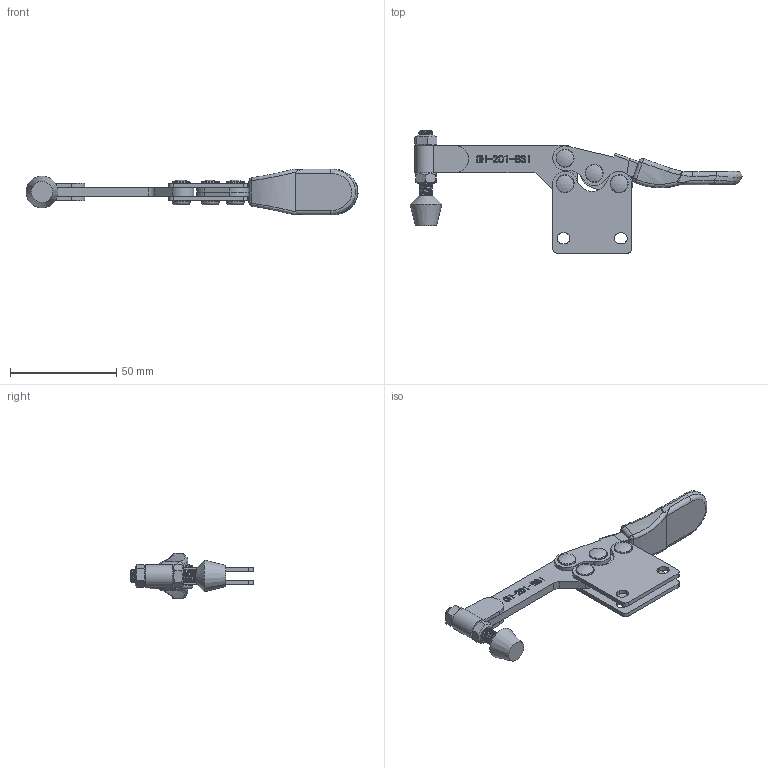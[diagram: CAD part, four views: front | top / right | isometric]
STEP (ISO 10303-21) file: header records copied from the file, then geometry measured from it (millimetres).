
FILE_DESCRIPTION(/* description */ ('STEP AP203'),/* implementation_level */ '2;1');
FILE_NAME(/* name */ 'E:\STRONA\Horizontal toggle clamp\CH-201-BSI\CH-201-BSI_ZAMKNIETY.stp',/* time_stamp */ '2019-01-15T15:37:53+01:00',/* author */ ('Admin'),/* organization */ ('·L?¤¤?'),/* preprocessor_version */ 'ST-DEVELOPER v17.2',/* originating_system */ 'Autodesk Inventor 2019',/* authorisation */ '');
FILE_SCHEMA (('AUTOMOTIVE_DESIGN { 1 0 10303 214 3 1 1 }'));
Products named in the file (11): CH-201-BSI_ZAMKNIETY; 14134-02___; BR-142___; 201-B-04___; 201-B___; 201-B-03___; 201-B-05___; 201-BSI-02___; 201-BI-01___; 14134___; 201-B-06___
Assembly tree (15 placements, depth 3):
  CH-201-BSI_ZAMKNIETY
    14134-02___  x2
    201-B-06___  x4
    201-B-04___  x2
    BR-142___
    201-B___
      201-B-03___
      201-B-05___
    201-BSI-02___
    201-BI-01___
    14134___
Bounding box: 155.98 x 57.47 x 21.5 mm (x, y, z)
Volume: 22601.7 mm3; surface area: 24066.8 mm2
Topology: 15 solids, 17 shells, 660 faces, 1813 edges, 1218 vertices
Faces by surface type: plane 262, bspline 215, cylinder 142, cone 18, torus 18, sphere 5
Full cylindrical faces by diameter (mm): 1.7 x1, 2.2 x1, 3.494 x4, 4.7 x4, 4.78 x4, 4.8 x10, 5.1 x6, 6.4 x26, 8.5 x8
Entity records: 49393 total; most frequent: CARTESIAN_POINT 35211, ORIENTED_EDGE 3262, DIRECTION 2167, EDGE_CURVE 1631, VERTEX_POINT 1091, LINE 847, VECTOR 847, EDGE_LOOP 660
